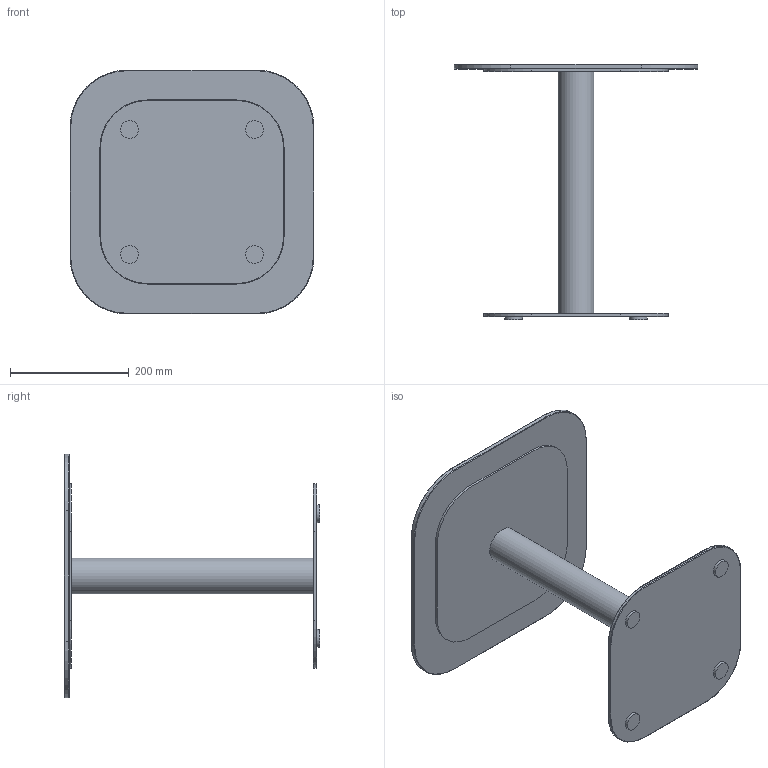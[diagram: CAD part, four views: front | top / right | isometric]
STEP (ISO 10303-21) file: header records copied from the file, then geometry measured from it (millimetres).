
FILE_DESCRIPTION(/* description */ (''),/* implementation_level */ '2;1');
FILE_NAME(/* name */ 'U:/01 COLLECTIE/02 OUTDOOR/01 Producten/Kodo collection/Coffee Table & side table/3D/VincentSheppard_Kodo_ST.step',/* time_stamp */ '2019-09-24T08:30:11+02:00',/* author */ (''),/* organization */ (''),/* preprocessor_version */ 'ST-DEVELOPER v18',/* originating_system */ 'Autodesk Translation Framework v8.6.0.1094',/* authorisation */ '');
FILE_SCHEMA (('AUTOMOTIVE_DESIGN { 1 0 10303 214 3 1 1 }'));
Length unit declared in the file: millimetre
Products named in the file (1): VincentSheppard_Kodo_ST
Bounding box: 410 x 430 x 410 mm (x, y, z)
Volume: 3351840 mm3; surface area: 793204.4 mm2
Topology: 8 solids, 8 shells, 77 faces, 151 edges, 90 vertices
Faces by surface type: plane 36, cylinder 25, cone 8, torus 8
Full cylindrical faces by diameter (mm): 30 x4, 60 x1
Entity records: 1988 total; most frequent: DIRECTION 373, CARTESIAN_POINT 319, ORIENTED_EDGE 302, EDGE_CURVE 151, AXIS2_PLACEMENT_3D 144, VERTEX_POINT 90, LINE 85, VECTOR 85
